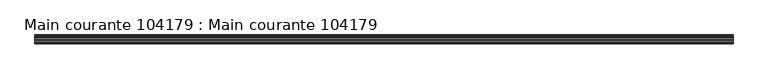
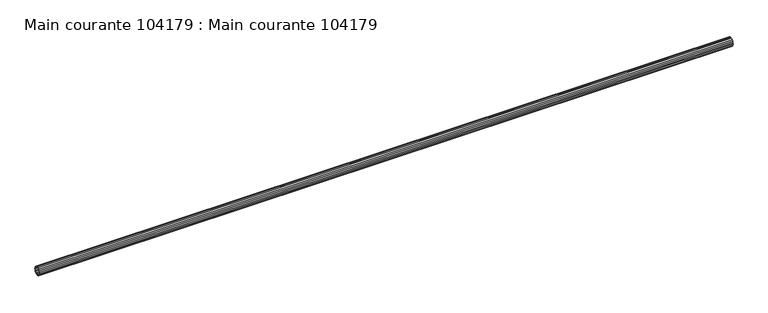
"""IFC4 building model written with IfcOpenShell, lengths in millimetres: beam geometry, Main courante 104179 : Main courante 104179."""

import ifcopenshell
import ifcopenshell.guid

model = None  # the IFC model being written
_history = None  # IfcOwnerHistory: only IFC2X3 demands one
_inside = {}  # id of a spatial element -> (the spatial element, [elements in it])
_under = {}  # id of a project, library or spatial element -> (it, [spatial elements below it])
_declared = {}  # id of a project -> (the project, [libraries it declares])
_typed = {}  # id of a type object -> (the type object, [elements of that type])
_made_of = {}  # id of a material, layer set ... -> (it, [elements and type objects made of it])


def new_model(schema):
    """Start an empty IFC model of exactly this schema.

    Asked for "IFC4X3", IfcOpenShell would pick the latest addendum, in which some entities
    have other attributes; the version numbers below select the first issue.
    IFC2X3 requires an IfcOwnerHistory on every rooted entity: one is made here for all.
    """
    global model, _history
    if schema == "IFC4X3":
        model = ifcopenshell.file(schema_version=(4, 3, 0, 0))
    else:
        model = ifcopenshell.file(schema=schema)
    _inside.clear()
    _under.clear()
    _declared.clear()
    _typed.clear()
    _made_of.clear()
    _history = None
    if model.schema == "IFC2X3":
        org = make("IfcOrganization", Name="unknown")
        user = make(
            "IfcPersonAndOrganization",
            ThePerson=make("IfcPerson", FamilyName="unknown"),
            TheOrganization=org,
        )
        app = make(
            "IfcApplication",
            ApplicationDeveloper=org,
            Version="unknown",
            ApplicationFullName="unknown",
            ApplicationIdentifier="unknown",
        )
        _history = make(
            "IfcOwnerHistory",
            OwningUser=user,
            OwningApplication=app,
            ChangeAction="ADDED",
            CreationDate=0,
        )
    return model


def make(cls, **values):
    """One entity of the class cls with the attributes given. An attribute that is None is left unset."""
    return model.create_entity(
        cls, **{name: value for name, value in values.items() if value is not None}
    )


def rooted(cls, **values):
    """An entity with a GlobalId (a new one), such as an element, a storey or a relation."""
    return make(cls, GlobalId=ifcopenshell.guid.new(), OwnerHistory=_history, **values)


def si_unit(unit_type, name, prefix=None):
    """IfcSIUnit, for example si_unit("LENGTHUNIT", "METRE", prefix="MILLI")."""
    return make("IfcSIUnit", UnitType=unit_type, Prefix=prefix, Name=name)


def assignment(units):
    """IfcUnitAssignment: the units of a project."""
    return None if units is None else make("IfcUnitAssignment", Units=units)


def point(xyz):
    """IfcCartesianPoint."""
    return None if xyz is None else make("IfcCartesianPoint", Coordinates=xyz)


def direction(xyz):
    """IfcDirection."""
    return None if xyz is None else make("IfcDirection", DirectionRatios=xyz)


def frame(location, z_axis=None, x_axis=None):
    """IfcAxis2Placement3D, a coordinate frame: its origin and axes. An axis left out is left unset."""
    return make(
        "IfcAxis2Placement3D",
        Location=point(location),
        Axis=direction(z_axis),
        RefDirection=direction(x_axis),
    )


def origin():
    """The frame at (0, 0, 0) with its axes left unset."""
    return frame((0.0, 0.0, 0.0))


def place(relative_to, where):
    """IfcLocalPlacement: puts the frame where relative to a parent placement (None: the world)."""
    return make(
        "IfcLocalPlacement", PlacementRelTo=relative_to, RelativePlacement=where
    )


def context(
    kind, dimensions, precision=None, world=None, true_north=None, identifier=None
):
    """IfcGeometricRepresentationContext, for example the 3D "Model" context."""
    return make(
        "IfcGeometricRepresentationContext",
        ContextIdentifier=identifier,
        ContextType=kind,
        CoordinateSpaceDimension=dimensions,
        Precision=precision,
        WorldCoordinateSystem=world,
        TrueNorth=true_north,
    )


def project(units=None, contexts=None):
    """IfcProject with its units and contexts."""
    return rooted(
        "IfcProject",
        Name="project",
        RepresentationContexts=contexts,
        UnitsInContext=assignment(units),
    )


def spatial(cls, under=None, at=None, **own):
    """A site, building, storey or space (cls), placed at a placement, below another one or the project."""
    s = rooted(cls, ObjectPlacement=at, **own)
    if under is not None:
        _under.setdefault(under.id(), (under, []))[1].append(s)
    return s


def polyline(points):
    """IfcPolyline through the points."""
    return make("IfcPolyline", Points=[point(p) for p in points])


def outline(outer, holes=None, kind="AREA"):
    """IfcArbitraryClosedProfileDef: a profile drawn as a closed curve; with holes, ...WithVoids."""
    if holes is None:
        return make("IfcArbitraryClosedProfileDef", ProfileType=kind, OuterCurve=outer)
    return make(
        "IfcArbitraryProfileDefWithVoids",
        ProfileType=kind,
        OuterCurve=outer,
        InnerCurves=holes,
    )


def extrude(swept, where, along, depth):
    """IfcExtrudedAreaSolid: the profile swept, set in the frame where, extruded along a direction by depth."""
    return make(
        "IfcExtrudedAreaSolid",
        SweptArea=swept,
        Position=where,
        ExtrudedDirection=direction(along),
        Depth=depth,
    )


def shape(context_of_items, identifier, shape_type, items):
    """IfcShapeRepresentation: the items that make up one representation, for example the "Body"."""
    return make(
        "IfcShapeRepresentation",
        ContextOfItems=context_of_items,
        RepresentationIdentifier=identifier,
        RepresentationType=shape_type,
        Items=items,
    )


def source(mapping_origin, context_of_items, identifier, shape_type, items):
    """IfcRepresentationMap: a shape defined once, which mapped items show again and again."""
    return make(
        "IfcRepresentationMap",
        MappingOrigin=mapping_origin,
        MappedRepresentation=shape(context_of_items, identifier, shape_type, items),
    )


def transform(
    local_origin,
    x_axis=None,
    y_axis=None,
    z_axis=None,
    scale=None,
    scale2=None,
    scale3=None,
    uniform=True,
):
    """IfcCartesianTransformationOperator3D, or its non-uniform kind. x_axis, y_axis, z_axis: its Axis1, 2, 3."""
    if uniform:
        return make(
            "IfcCartesianTransformationOperator3D",
            Axis1=direction(x_axis),
            Axis2=direction(y_axis),
            LocalOrigin=point(local_origin),
            Scale=scale,
            Axis3=direction(z_axis),
        )
    return make(
        "IfcCartesianTransformationOperator3DnonUniform",
        Axis1=direction(x_axis),
        Axis2=direction(y_axis),
        LocalOrigin=point(local_origin),
        Scale=scale,
        Axis3=direction(z_axis),
        Scale2=scale2,
        Scale3=scale3,
    )


def mapped(mapping_source, mapping_target):
    """IfcMappedItem: shows the shape of a source again, moved by a transform."""
    return make(
        "IfcMappedItem", MappingSource=mapping_source, MappingTarget=mapping_target
    )


def made_of(thing, what):
    """Note that an element or type object is made of a material, layer set ...; save() writes the relation."""
    if what is not None:
        _made_of.setdefault(what.id(), (what, []))[1].append(thing)
    return thing


def element(
    cls,
    number,
    at=None,
    inside=None,
    cuts=None,
    type_object=None,
    material=None,
    context=None,
    identifier="Body",
    shape_type=None,
    held_by="IfcProductDefinitionShape",
    body=None,
    shapes=None,
    **own,
):
    """One element of the class cls, such as IfcWall. Its Tag is "e" and its number.

    at: its placement. inside: the storey or other place that contains it. cuts: it is an
    opening in that element (IfcRelVoidsElement). A single representation is given by context,
    identifier, shape_type and body (its items); several are given by shapes. held_by: the class
    of the entity that holds the representations. save() writes the other relations.
    """
    e = rooted(cls, Tag="e%d" % number, ObjectPlacement=at, **own)
    if body is not None:
        shapes = [shape(context, identifier, shape_type, body)]
    if shapes is not None:
        e.Representation = make(held_by, Representations=shapes)
    if inside is not None:
        _inside.setdefault(inside.id(), (inside, []))[1].append(e)
    if cuts is not None:
        rooted(
            "IfcRelVoidsElement", RelatingBuildingElement=cuts, RelatedOpeningElement=e
        )
    if type_object is not None:
        _typed.setdefault(type_object.id(), (type_object, []))[1].append(e)
    return made_of(e, material)


def aggregate(whole, parts):
    """IfcRelAggregates: a whole, such as a stair, and the parts it consists of."""
    return rooted("IfcRelAggregates", RelatingObject=whole, RelatedObjects=parts)


def save(model, path):
    """Write the relations noted so far, then the file.

    IfcRelAggregates (storeys below a building ...), IfcRelContainedInSpatialStructure (elements
    in a storey), IfcRelDefinesByType, IfcRelAssociatesMaterial and IfcRelDeclares: one each for
    every whole, place, type object, material and project.
    """
    for whole, parts in _under.values():
        aggregate(whole, parts)
    for where, things in _inside.values():
        rooted(
            "IfcRelContainedInSpatialStructure",
            RelatedElements=things,
            RelatingStructure=where,
        )
    for kind, things in _typed.values():
        rooted("IfcRelDefinesByType", RelatedObjects=things, RelatingType=kind)
    for what, things in _made_of.values():
        rooted("IfcRelAssociatesMaterial", RelatedObjects=things, RelatingMaterial=what)
    for by, libraries in _declared.values():
        rooted("IfcRelDeclares", RelatingContext=by, RelatedDefinitions=libraries)
    model.write(path)


def main_courante_104179_main_courante_104179_2a7896ee(model_context):
    return source(origin(), model_context, "Body", "SweptSolid", [
        extrude(outline(polyline([(-24939.3127604, 9262.9680149), (-24931.85, 9264.15), (-24924.3872396, 9262.9680149), (-24917.6549862, 9259.5377604), (-24912.3122396, 9254.1950138), (-24908.8819851, 9247.4627604), (-24907.7, 9240.0), (-24908.8819851, 9232.5372396), (-24912.3122396, 9225.8049862), (-24917.6549862, 9220.4622396), (-24924.3872396, 9217.0319851), (-24931.85, 9215.85), (-24939.3127604, 9217.0319851), (-24946.0450138, 9220.4622396), (-24951.3877604, 9225.8049862), (-24954.8180149, 9232.5372396), (-24956.0, 9240.0), (-24954.8180149, 9247.4627604), (-24951.3877604, 9254.1950138), (-24946.0450138, 9259.5377604), (-24939.3127604, 9262.9680149)]), holes=[polyline([(-24910.2, 9240.0), (-24911.2596264, 9246.6902179), (-24914.3347821, 9252.7255507), (-24919.1244493, 9257.5152179), (-24925.1597821, 9260.5903736), (-24931.85, 9261.65), (-24938.5402179, 9260.5903736), (-24944.5755507, 9257.5152179), (-24949.3652179, 9252.7255507), (-24952.4403736, 9246.6902179), (-24953.5, 9240.0), (-24952.4403736, 9233.3097821), (-24949.3652179, 9227.2744493), (-24944.5755507, 9222.4847821), (-24938.5402179, 9219.4096264), (-24931.85, 9218.35), (-24925.1597821, 9219.4096264), (-24919.1244493, 9222.4847821), (-24914.3347821, 9227.2744493), (-24911.2596264, 9233.3097821), (-24910.2, 9240.0)])]), frame((11527.2815707, 0.0, 0.0), z_axis=(1.0, 0.0, 0.0), x_axis=(0.0, 1.0, 0.0)), (0.0, 0.0, 1.0), 3862.7184292),
    ])


if __name__ == "__main__":
    model = new_model("IFC4")
    model_context = context("Model", 3, world=origin())
    ifc_project = project(units=[si_unit("LENGTHUNIT", "METRE", prefix="MILLI")], contexts=[model_context])
    site = spatial("IfcSite", under=ifc_project)
    building = spatial("IfcBuilding", under=site)
    placement = place(None, origin())
    main_courante_104179_main_courante_104179_shape = main_courante_104179_main_courante_104179_2a7896ee(model_context)
    element("IfcBeam", 1, ObjectType="Main courante 104179 : Main courante 104179", at=placement, inside=building, context=model_context, shape_type="MappedRepresentation", body=[
        mapped(main_courante_104179_main_courante_104179_shape, transform((0.0, 0.0, 0.0), x_axis=(1.0, 0.0, 0.0), y_axis=(0.0, 1.0, 0.0), z_axis=(0.0, 0.0, 1.0))),
    ])
    save(model, "model.ifc")
